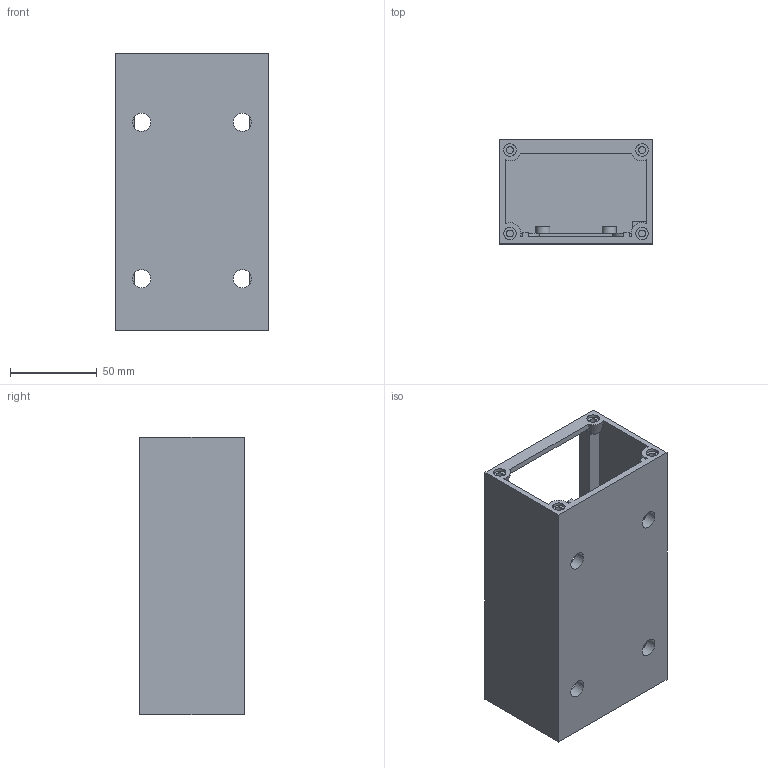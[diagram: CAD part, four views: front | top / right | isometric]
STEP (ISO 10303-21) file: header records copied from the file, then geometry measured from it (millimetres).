
FILE_DESCRIPTION(('FreeCAD Model'),'2;1');
FILE_NAME('Open CASCADE Shape Model','2026-09-11T17:58:35',( '' ),( '' ),'Open CASCADE STEP processor 7.8','FreeCAD','Unknown');
FILE_SCHEMA(('AUTOMOTIVE_DESIGN { 1 0 10303 214 1 1 1 1 }'));
Length unit declared in the file: millimetre
Products named in the file (1): Open CASCADE STEP translator 7.8 2
Bounding box: 88 x 60 x 159.8 mm (x, y, z)
Volume: 160990.5 mm3; surface area: 87890.4 mm2
Topology: 1 solids, 1 shells, 195 faces, 503 edges, 334 vertices
Faces by surface type: plane 144, cylinder 45, cone 6
Full cylindrical faces by diameter (mm): 4 x16, 7.2 x4, 8 x4, 10.4 x4
Entity records: 5971 total; most frequent: CARTESIAN_POINT 1033, DIRECTION 1031, ORIENTED_EDGE 1006, EDGE_CURVE 503, LINE 367, VECTOR 367, VERTEX_POINT 334, AXIS2_PLACEMENT_3D 332
